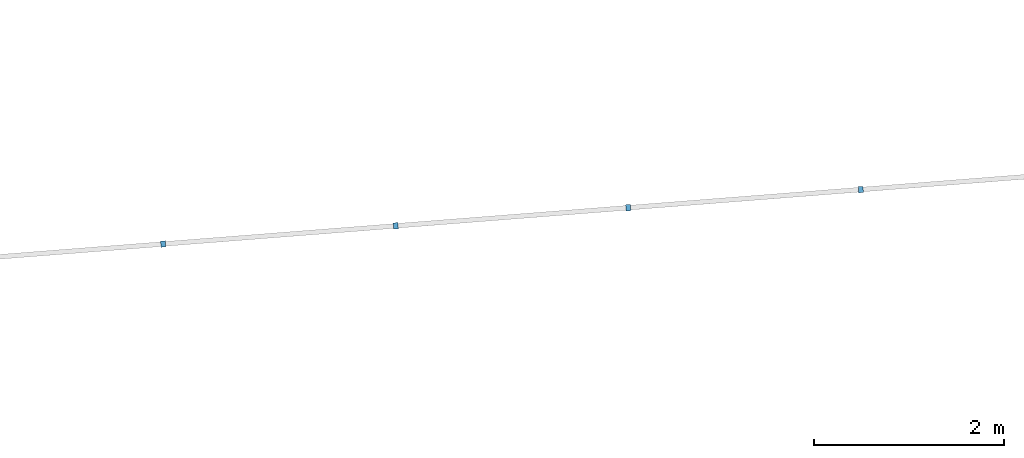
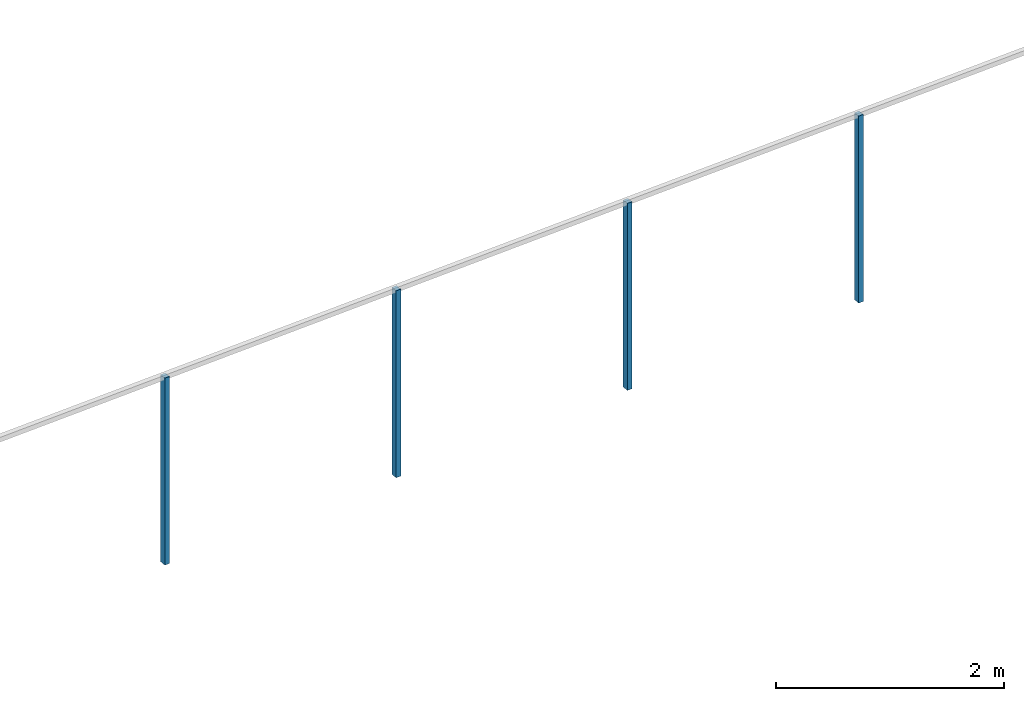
# One storey, part 70 of 91: 4 building element parts, 1 element without a shape of its own.
"""IFC2X3 building model written with IfcOpenShell, lengths in metres."""

from ifc_helpers import new_model, entity, si_unit, converted_unit, derived_unit, money_unit, direction, frame, origin_with_axes, place, context, subcontext, project, spatial, faceted_brep, material, type_object, element, aggregate, save


model = new_model("IFC2X3")

# Units and contexts
model_context = context("Model", 3, precision=1e-05, world=origin_with_axes(), true_north=direction((0.0, 1.0)))
body_context = subcontext(model_context, "Body", "Model", "MODEL_VIEW")
ifc_project = project(units=[si_unit("LENGTHUNIT", "METRE"), si_unit("AREAUNIT", "SQUARE_METRE"), si_unit("VOLUMEUNIT", "CUBIC_METRE"), converted_unit("PLANEANGLEUNIT", "DEGREE", entity("IfcPlaneAngleMeasure", 0.0174532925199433), si_unit("PLANEANGLEUNIT", "RADIAN"), dimensions=[0, 0, 0, 0, 0, 0, 0]), money_unit("EUR"), converted_unit("TIMEUNIT", "Year", entity("IfcTimeMeasure", 31557600.0), si_unit("TIMEUNIT", "SECOND"), dimensions=[0, 0, 1, 0, 0, 0, 0]), si_unit("MASSUNIT", "GRAM", prefix="KILO"), si_unit("THERMODYNAMICTEMPERATUREUNIT", "DEGREE_CELSIUS"), si_unit("LUMINOUSINTENSITYUNIT", "LUMEN"), si_unit("ENERGYUNIT", "JOULE", prefix="MEGA"), derived_unit("THERMALCONDUCTANCEUNIT", [(si_unit("POWERUNIT", "WATT"), 1), (si_unit("LENGTHUNIT", "METRE"), -1), (si_unit("THERMODYNAMICTEMPERATUREUNIT", "KELVIN"), -1)]), derived_unit("SPECIFICHEATCAPACITYUNIT", [(si_unit("ENERGYUNIT", "JOULE"), 1), (si_unit("MASSUNIT", "GRAM", prefix="KILO"), -1), (si_unit("THERMODYNAMICTEMPERATUREUNIT", "KELVIN"), -1)]), derived_unit("MASSDENSITYUNIT", [(si_unit("MASSUNIT", "GRAM", prefix="KILO"), 1), (si_unit("VOLUMEUNIT", "CUBIC_METRE"), -1)])], contexts=[model_context])

# Site, building, storey
site_placement = place(None, origin_with_axes())
site = spatial("IfcSite", under=ifc_project, at=site_placement, Name="Site", CompositionType="ELEMENT")
building_placement = place(site_placement, origin_with_axes())
building = spatial("IfcBuilding", under=site, at=building_placement, Name="Bâtiment", CompositionType="ELEMENT")
storey_placement = place(building_placement, origin_with_axes())
storey = spatial("IfcBuildingStorey", under=building, at=storey_placement, Name="RDC", CompositionType="ELEMENT", Elevation=0.0)

# Proxy, building element parts
building_element_proxy_type = type_object("IfcBuildingElementProxyType", Name="Type de garde-corps", PredefinedType="NOTDEFINED")
proxy_placement = place(storey_placement, frame((79.63337255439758, 3.614023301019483, -2.37161404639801), z_axis=(0.0, 0.0, 1.0), x_axis=(1.0, 0.0, 0.0)))
proxy = element("IfcBuildingElementProxy", 1, at=proxy_placement, inside=storey, type_object=building_element_proxy_type, Name="RAMPE-004")
ifc_material = material(Name="Acier Galva")
building_element_part_1_placement = place(proxy_placement, origin_with_axes())
building_element_part_1 = element("IfcBuildingElementPart", 2, at=building_element_part_1_placement, material=ifc_material, Name="Acier Galva", context=body_context, shape_type="Brep", body=[
    faceted_brep([(1.360957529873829, -18.01002101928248, 1.181976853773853), (1.355822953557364, -17.94422104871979, 1.181976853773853), (1.355822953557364, -17.94422104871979, 3.181976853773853), (1.360957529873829, -18.01002101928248, 3.181976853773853), (1.311109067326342, -18.01391084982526, 1.182783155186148), (1.305974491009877, -17.94811087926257, 1.182783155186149), (1.305974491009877, -17.94811087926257, 3.182783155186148), (1.311109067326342, -18.01391084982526, 3.182783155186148)], [[[0, 1, 2, 3]], [[0, 4, 5, 1]], [[1, 5, 6, 2]], [[3, 2, 6, 7]], [[4, 0, 3, 7]], [[5, 4, 7, 6]]]),
])
building_element_part_2_placement = place(proxy_placement, origin_with_axes())
building_element_part_2 = element("IfcBuildingElementPart", 3, at=building_element_part_2_placement, material=ifc_material, Name="Acier Galva", context=body_context, shape_type="Brep", body=[
    faceted_brep([(3.811809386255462, -17.81877342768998, 1.142334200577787), (3.806674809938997, -17.75297345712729, 1.142334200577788), (3.806674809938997, -17.75297345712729, 3.142334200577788), (3.811809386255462, -17.81877342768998, 3.142334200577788), (3.761960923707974, -17.82266325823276, 1.143140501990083), (3.75682634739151, -17.75686328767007, 1.143140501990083), (3.75682634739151, -17.75686328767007, 3.143140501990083), (3.761960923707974, -17.82266325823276, 3.143140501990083)], [[[0, 1, 2, 3]], [[0, 4, 5, 1]], [[1, 5, 6, 2]], [[3, 2, 6, 7]], [[4, 0, 3, 7]], [[5, 4, 7, 6]]]),
])
building_element_part_3_placement = place(proxy_placement, origin_with_axes())
building_element_part_3 = element("IfcBuildingElementPart", 4, at=building_element_part_3_placement, material=ifc_material, Name="Acier Galva", context=body_context, shape_type="Brep", body=[
    faceted_brep([(6.262661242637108, -17.62752583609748, 1.102691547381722), (6.257526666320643, -17.56172586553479, 1.102691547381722), (6.257526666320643, -17.56172586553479, 3.102691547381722), (6.262661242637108, -17.62752583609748, 3.102691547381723), (6.212812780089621, -17.63141566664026, 1.103497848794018), (6.207678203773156, -17.56561569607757, 1.103497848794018), (6.207678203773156, -17.56561569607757, 3.103497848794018), (6.212812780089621, -17.63141566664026, 3.103497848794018)], [[[0, 1, 2, 3]], [[0, 4, 5, 1]], [[1, 5, 6, 2]], [[3, 2, 6, 7]], [[4, 0, 3, 7]], [[5, 4, 7, 6]]]),
])
building_element_part_4_placement = place(proxy_placement, origin_with_axes())
building_element_part_4 = element("IfcBuildingElementPart", 5, at=building_element_part_4_placement, material=ifc_material, Name="Acier Galva", context=body_context, shape_type="Brep", body=[
    faceted_brep([(8.71351309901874, -17.43627824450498, 1.063048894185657), (8.708378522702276, -17.37047827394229, 1.063048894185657), (8.708378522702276, -17.37047827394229, 3.063048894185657), (8.71351309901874, -17.43627824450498, 3.063048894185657), (8.663664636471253, -17.44016807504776, 1.063855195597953), (8.658530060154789, -17.37436810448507, 1.063855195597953), (8.658530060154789, -17.37436810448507, 3.063855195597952), (8.663664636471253, -17.44016807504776, 3.063855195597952)], [[[0, 1, 2, 3]], [[0, 4, 5, 1]], [[1, 5, 6, 2]], [[3, 2, 6, 7]], [[4, 0, 3, 7]], [[5, 4, 7, 6]]]),
])
aggregate(proxy, [building_element_part_1, building_element_part_2, building_element_part_3, building_element_part_4])

save(model, "model.ifc")
